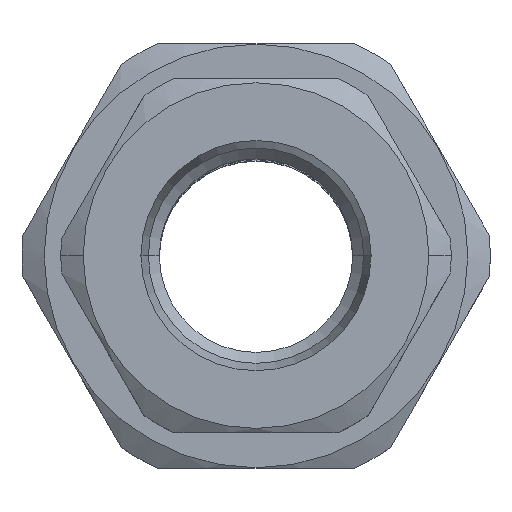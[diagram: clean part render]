
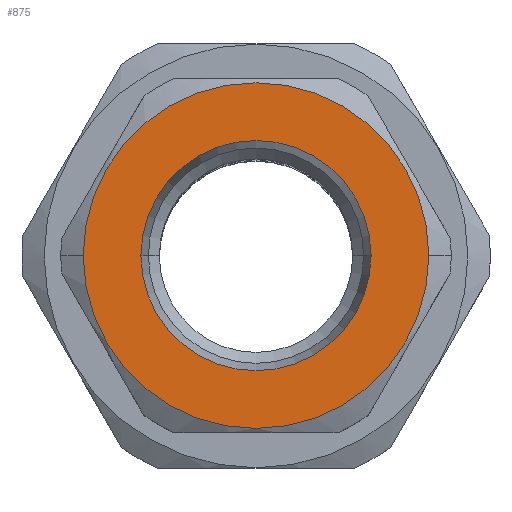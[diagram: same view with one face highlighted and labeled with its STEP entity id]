
A CAD part, top view. The second image highlights one B-rep face of the part: STEP entity #875.
In plain terms, the highlighted planar face has unit normal (0, 0, 1).
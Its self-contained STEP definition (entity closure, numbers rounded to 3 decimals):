
#143 = DIRECTION ( 'NONE',  ( 0., 0., -1. ) ) ;
#215 = CARTESIAN_POINT ( 'NONE',  ( 15.5, 0., 72.5 ) ) ;
#426 = AXIS2_PLACEMENT_3D ( 'NONE', #911, #143, #539 ) ;
#518 = CIRCLE ( 'NONE', #1237, 15.5 ) ;
#539 = DIRECTION ( 'NONE',  ( 1., 0., 0. ) ) ;
#593 = CARTESIAN_POINT ( 'NONE',  ( 0., -17.5, 72.5 ) ) ;
#616 = FACE_BOUND ( 'NONE', #960, .T. ) ;
#645 = CIRCLE ( 'NONE', #1243, 15.5 ) ;
#675 = EDGE_CURVE ( 'NONE', #1204, #1537, #2334, .T. ) ;
#806 = EDGE_CURVE ( 'NONE', #1537, #1204, #921, .T. ) ;
#809 = ORIENTED_EDGE ( 'NONE', *, *, #1350, .T. ) ;
#821 = EDGE_LOOP ( 'NONE', ( #809, #2304 ) ) ;
#830 = DIRECTION ( 'NONE',  ( 0., 0., 1. ) ) ;
#875 = ADVANCED_FACE ( 'NONE', ( #1490, #616 ), #2203, .F. ) ;
#911 = CARTESIAN_POINT ( 'NONE',  ( 0., 0., 72.5 ) ) ;
#921 = CIRCLE ( 'NONE', #1445, 10.325 ) ;
#935 = ORIENTED_EDGE ( 'NONE', *, *, #675, .T. ) ;
#937 = CARTESIAN_POINT ( 'NONE',  ( 0., 0., 72.5 ) ) ;
#960 = EDGE_LOOP ( 'NONE', ( #1380, #935 ) ) ;
#1033 = AXIS2_PLACEMENT_3D ( 'NONE', #593, #1335, #2062 ) ;
#1071 = CARTESIAN_POINT ( 'NONE',  ( 0., 0., 72.5 ) ) ;
#1136 = EDGE_CURVE ( 'NONE', #2049, #2111, #645, .T. ) ;
#1144 = CARTESIAN_POINT ( 'NONE',  ( 10.325, 0., 72.5 ) ) ;
#1204 = VERTEX_POINT ( 'NONE', #1144 ) ;
#1237 = AXIS2_PLACEMENT_3D ( 'NONE', #1538, #830, #1518 ) ;
#1243 = AXIS2_PLACEMENT_3D ( 'NONE', #1071, #2131, #1594 ) ;
#1335 = DIRECTION ( 'NONE',  ( 0., 0., -1. ) ) ;
#1350 = EDGE_CURVE ( 'NONE', #2111, #2049, #518, .T. ) ;
#1380 = ORIENTED_EDGE ( 'NONE', *, *, #806, .T. ) ;
#1445 = AXIS2_PLACEMENT_3D ( 'NONE', #937, #1856, #1663 ) ;
#1490 = FACE_OUTER_BOUND ( 'NONE', #821, .T. ) ;
#1518 = DIRECTION ( 'NONE',  ( 1., 0., 0. ) ) ;
#1537 = VERTEX_POINT ( 'NONE', #2248 ) ;
#1538 = CARTESIAN_POINT ( 'NONE',  ( 0., 0., 72.5 ) ) ;
#1594 = DIRECTION ( 'NONE',  ( 1., 0., 0. ) ) ;
#1663 = DIRECTION ( 'NONE',  ( 1., 0., 0. ) ) ;
#1856 = DIRECTION ( 'NONE',  ( 0., 0., -1. ) ) ;
#2049 = VERTEX_POINT ( 'NONE', #2303 ) ;
#2062 = DIRECTION ( 'NONE',  ( 1., 0., 0. ) ) ;
#2111 = VERTEX_POINT ( 'NONE', #215 ) ;
#2131 = DIRECTION ( 'NONE',  ( 0., 0., 1. ) ) ;
#2203 = PLANE ( 'NONE',  #1033 ) ;
#2248 = CARTESIAN_POINT ( 'NONE',  ( -10.325, 0., 72.5 ) ) ;
#2303 = CARTESIAN_POINT ( 'NONE',  ( -15.5, 0., 72.5 ) ) ;
#2304 = ORIENTED_EDGE ( 'NONE', *, *, #1136, .T. ) ;
#2334 = CIRCLE ( 'NONE', #426, 10.325 ) ;
